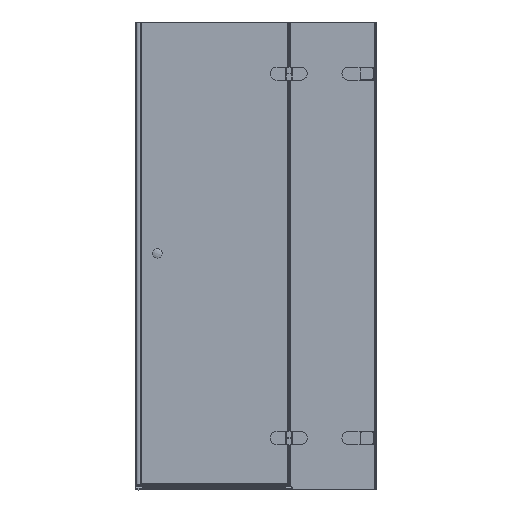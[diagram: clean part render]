
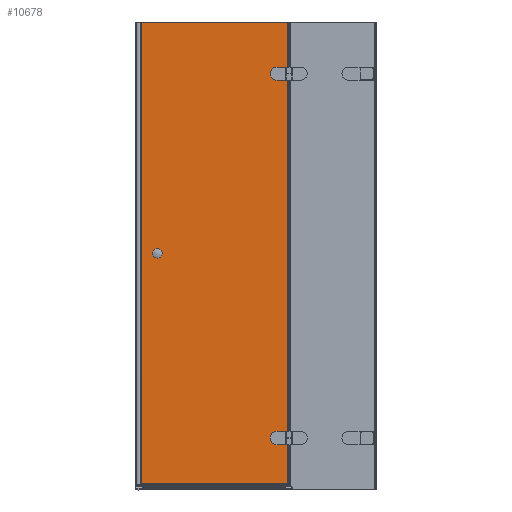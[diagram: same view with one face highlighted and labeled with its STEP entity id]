
A CAD part, front view. The second image highlights one B-rep face of the part: STEP entity #10678.
In plain terms, the highlighted planar face has unit normal (0, -1, 0).
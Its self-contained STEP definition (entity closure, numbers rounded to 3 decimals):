
#179=LINE($,#14716,#1273);
#183=LINE($,#14723,#1277);
#186=LINE($,#14732,#1280);
#229=LINE($,#14844,#1323);
#233=LINE($,#14851,#1327);
#236=LINE($,#14860,#1330);
#837=LINE($,#16782,#1931);
#1121=LINE($,#17639,#2215);
#1122=LINE($,#17641,#2216);
#1123=LINE($,#17642,#2217);
#1273=VECTOR($,#11873,52.);
#1277=VECTOR($,#11879,23.);
#1280=VECTOR($,#11890,23.);
#1323=VECTOR($,#11997,52.);
#1327=VECTOR($,#12003,23.);
#1330=VECTOR($,#12014,23.);
#1931=VECTOR($,#13411,595.4);
#2215=VECTOR($,#14265,1875.4);
#2216=VECTOR($,#14266,595.4);
#2217=VECTOR($,#14267,1875.4);
#2318=FACE_BOUND($,#3627,.T.);
#2319=FACE_BOUND($,#3628,.T.);
#2320=FACE_BOUND($,#3629,.T.);
#3627=EDGE_LOOP($,(#8891,#8892,#8893,#8894));
#3628=EDGE_LOOP($,(#8895,#8896,#8897,#8898));
#3629=EDGE_LOOP($,(#8899,#8900,#8901,#8902));
#3711=CIRCLE($,#10817,26.);
#3723=CIRCLE($,#10854,26.);
#4045=VERTEX_POINT($,#14713);
#4046=VERTEX_POINT($,#14715);
#4048=VERTEX_POINT($,#14721);
#4050=VERTEX_POINT($,#14727);
#4086=VERTEX_POINT($,#14841);
#4087=VERTEX_POINT($,#14843);
#4089=VERTEX_POINT($,#14849);
#4091=VERTEX_POINT($,#14855);
#4599=VERTEX_POINT($,#16778);
#4600=VERTEX_POINT($,#16780);
#4796=VERTEX_POINT($,#17638);
#4797=VERTEX_POINT($,#17640);
#4966=EDGE_CURVE($,#4045,#4046,#179,.T.);
#4970=EDGE_CURVE($,#4048,#4045,#183,.T.);
#4973=EDGE_CURVE($,#4050,#4048,#3711,.T.);
#4975=EDGE_CURVE($,#4046,#4050,#186,.T.);
#5028=EDGE_CURVE($,#4086,#4087,#229,.T.);
#5032=EDGE_CURVE($,#4089,#4086,#233,.T.);
#5035=EDGE_CURVE($,#4091,#4089,#3723,.T.);
#5037=EDGE_CURVE($,#4087,#4091,#236,.T.);
#5817=EDGE_CURVE($,#4600,#4599,#837,.T.);
#6192=EDGE_CURVE($,#4600,#4796,#1121,.T.);
#6193=EDGE_CURVE($,#4796,#4797,#1122,.T.);
#6194=EDGE_CURVE($,#4599,#4797,#1123,.T.);
#8891=ORIENTED_EDGE($,*,*,#4966,.F.);
#8892=ORIENTED_EDGE($,*,*,#4970,.F.);
#8893=ORIENTED_EDGE($,*,*,#4973,.F.);
#8894=ORIENTED_EDGE($,*,*,#4975,.F.);
#8895=ORIENTED_EDGE($,*,*,#5028,.F.);
#8896=ORIENTED_EDGE($,*,*,#5032,.F.);
#8897=ORIENTED_EDGE($,*,*,#5035,.F.);
#8898=ORIENTED_EDGE($,*,*,#5037,.F.);
#8899=ORIENTED_EDGE($,*,*,#5817,.F.);
#8900=ORIENTED_EDGE($,*,*,#6192,.T.);
#8901=ORIENTED_EDGE($,*,*,#6193,.T.);
#8902=ORIENTED_EDGE($,*,*,#6194,.F.);
#9526=PLANE($,#11538);
#10678=ADVANCED_FACE($,(#2318,#2319,#2320),#9526,.F.);
#10817=AXIS2_PLACEMENT_3D($,#14729,#11885,#11886);
#10854=AXIS2_PLACEMENT_3D($,#14857,#12009,#12010);
#11538=AXIS2_PLACEMENT_3D($,#17637,#14263,#14264);
#11873=DIRECTION($,(0.,0.,1.));
#11879=DIRECTION($,(1.,0.,0.));
#11885=DIRECTION('center_axis',(0.,-1.,0.));
#11886=DIRECTION('ref_axis',(0.,0.,
1.));
#11890=DIRECTION($,(-1.,0.,0.));
#11997=DIRECTION($,(0.,0.,1.));
#12003=DIRECTION($,(1.,0.,0.));
#12009=DIRECTION('center_axis',(0.,-1.,0.));
#12010=DIRECTION('ref_axis',(0.,0.,
1.));
#12014=DIRECTION($,(-1.,0.,0.));
#13411=DIRECTION($,(-1.,0.,0.));
#14263=DIRECTION('center_axis',(0.,1.,0.));
#14264=DIRECTION('ref_axis',(-1.,0.,0.));
#14265=DIRECTION($,(0.,0.,1.));
#14266=DIRECTION($,(-1.,0.,0.));
#14267=DIRECTION($,(0.,0.,1.));
#14713=CARTESIAN_POINT('',(1991.59,5.956,1149.944));
#14715=CARTESIAN_POINT('',(1991.59,5.956,1201.944));
#14716=CARTESIAN_POINT($,(1991.59,5.956,327.944));
#14721=CARTESIAN_POINT('',(1968.59,5.956,1149.944));
#14723=CARTESIAN_POINT($,(1990.59,5.956,1149.944));
#14727=CARTESIAN_POINT('',(1968.59,5.956,1201.944));
#14729=CARTESIAN_POINT('Origin',(1968.59,5.956,1175.944));
#14732=CARTESIAN_POINT($,(2002.09,5.956,1201.944));
#14841=CARTESIAN_POINT('',(1991.59,5.956,-330.056));
#14843=CARTESIAN_POINT('',(1991.59,5.956,-278.056));
#14844=CARTESIAN_POINT($,(1991.59,5.956,-412.056));
#14849=CARTESIAN_POINT('',(1968.59,5.956,-330.056));
#14851=CARTESIAN_POINT($,(1990.59,5.956,-330.056));
#14855=CARTESIAN_POINT('',(1968.59,5.956,-278.056));
#14857=CARTESIAN_POINT('Origin',(1968.59,5.956,-304.056));
#14860=CARTESIAN_POINT($,(2002.09,5.956,-278.056));
#16778=CARTESIAN_POINT('',(1417.19,5.956,-489.456));
#16780=CARTESIAN_POINT('',(2012.59,5.956,-489.456));
#16782=CARTESIAN_POINT($,(2012.59,5.956,-489.456));
#17637=CARTESIAN_POINT('Origin',(2012.59,5.956,-494.056));
#17638=CARTESIAN_POINT('',(2012.59,5.956,1385.944));
#17639=CARTESIAN_POINT($,(2012.59,5.956,-494.056));
#17640=CARTESIAN_POINT('',(1417.19,5.956,1385.944));
#17641=CARTESIAN_POINT($,(2012.59,5.956,1385.944));
#17642=CARTESIAN_POINT($,(1417.19,5.956,-494.056));
